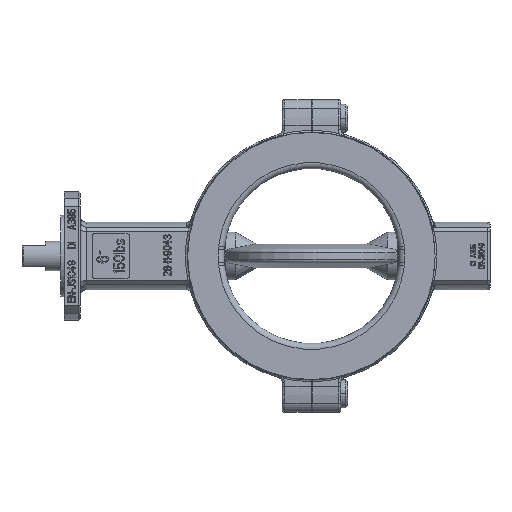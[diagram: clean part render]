
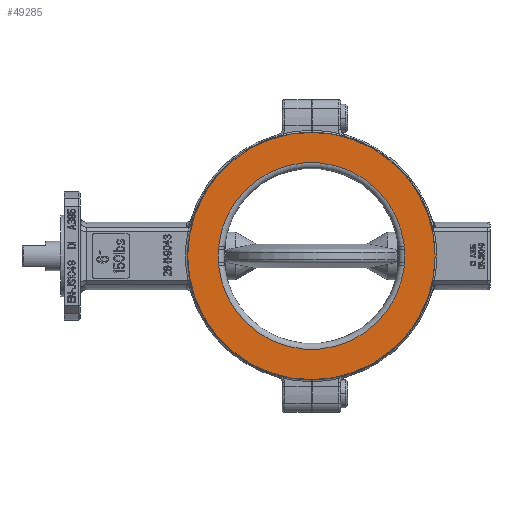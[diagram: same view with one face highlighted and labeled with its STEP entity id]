
A CAD part, left-side view. The second image highlights one B-rep face of the part: STEP entity #49285.
In plain terms, the highlighted planar face has unit normal (-1, 0, 0).
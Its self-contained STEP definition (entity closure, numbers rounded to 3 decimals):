
#3115=CARTESIAN_POINT('',(-28.,0.,0.));
#3116=DIRECTION('',(1.,0.,0.));
#3117=DIRECTION('',(0.,0.,-1.));
#3118=AXIS2_PLACEMENT_3D('',#3115,#3116,#3117);
#4468=CARTESIAN_POINT('',(-28.,79.536,
-8.604));
#4469=CARTESIAN_POINT('',(-28.,79.573,
-8.262));
#4470=CARTESIAN_POINT('',(-28.,79.634,
-7.564));
#4471=CARTESIAN_POINT('',(-28.,79.689,
-6.472));
#4472=CARTESIAN_POINT('',(-28.,79.7,
-5.716));
#4473=CARTESIAN_POINT('',(-28.,79.7,
-5.331));
#4491=CARTESIAN_POINT('',(-28.,0.,0.));
#4492=DIRECTION('',(-1.,0.,0.));
#4493=DIRECTION('',(0.,0.,-1.));
#4494=AXIS2_PLACEMENT_3D('',#4491,#4492,#4493);
#4500=CARTESIAN_POINT('',(-28.,0.,0.));
#4501=DIRECTION('',(1.,0.,0.));
#4502=DIRECTION('',(0.,-0.994,-0.108));
#4503=AXIS2_PLACEMENT_3D('',#4500,#4501,#4502);
#4510=CARTESIAN_POINT('',(-28.,-79.536,
-8.604));
#4511=CARTESIAN_POINT('',(-28.,-79.573,
-8.262));
#4512=CARTESIAN_POINT('',(-28.,-79.634,
-7.564));
#4513=CARTESIAN_POINT('',(-28.,-79.689,
-6.472));
#4514=CARTESIAN_POINT('',(-28.,-79.7,
-5.716));
#4515=CARTESIAN_POINT('',(-28.,-79.7,
-5.331));
#21171=DIRECTION('',(0.,0.,1.));
#21172=VECTOR('',#21171,10.662);
#21173=CARTESIAN_POINT('',(-28.,79.7,
-5.331));
#21174=LINE('',#21173,#21172);
#21184=CARTESIAN_POINT('',(-28.,79.7,
5.331));
#21185=CARTESIAN_POINT('',(-28.,79.7,
5.718));
#21186=CARTESIAN_POINT('',(-28.,79.688,
6.476));
#21187=CARTESIAN_POINT('',(-28.,79.634,
7.568));
#21188=CARTESIAN_POINT('',(-28.,79.573,
8.264));
#21189=CARTESIAN_POINT('',(-28.,79.536,
8.604));
#21213=CARTESIAN_POINT('',(-28.,0.,0.));
#21214=DIRECTION('',(1.,0.,0.));
#21215=DIRECTION('',(0.,0.994,0.108));
#21216=AXIS2_PLACEMENT_3D('',#21213,#21214,#21215);
#21340=CARTESIAN_POINT('',(-28.,-79.7,
5.331));
#21341=CARTESIAN_POINT('',(-28.,-79.7,
5.718));
#21342=CARTESIAN_POINT('',(-28.,-79.688,
6.476));
#21343=CARTESIAN_POINT('',(-28.,-79.634,
7.568));
#21344=CARTESIAN_POINT('',(-28.,-79.573,
8.264));
#21345=CARTESIAN_POINT('',(-28.,-79.536,
8.604));
#21359=DIRECTION('',(0.,0.,1.));
#21360=VECTOR('',#21359,10.662);
#21361=CARTESIAN_POINT('',(-28.,-79.7,
-5.331));
#21362=LINE('',#21361,#21360);
#44608=CARTESIAN_POINT('',(-28.,0.,-106.));
#44609=CARTESIAN_POINT('',(-28.,0.,106.));
#44610=VERTEX_POINT('',#44608);
#44611=VERTEX_POINT('',#44609);
#44624=VERTEX_POINT('',#4468);
#44625=VERTEX_POINT('',#4473);
#44628=CARTESIAN_POINT('',(-28.,79.7,
5.331));
#44629=VERTEX_POINT('',#44628);
#44632=VERTEX_POINT('',#21189);
#44644=VERTEX_POINT('',#4510);
#44645=VERTEX_POINT('',#4515);
#44648=CARTESIAN_POINT('',(-28.,-79.7,
5.331));
#44649=VERTEX_POINT('',#44648);
#44652=VERTEX_POINT('',#21345);
#49258=CARTESIAN_POINT('',(-28.,0.,0.));
#49259=DIRECTION('',(1.,0.,0.));
#49260=DIRECTION('',(0.,0.,-1.));
#49261=AXIS2_PLACEMENT_3D('',#49258,#49259,#49260);
#49262=PLANE('',#49261);
#49263=ORIENTED_EDGE('',*,*,#47237,.T.);
#49265=ORIENTED_EDGE('',*,*,#49264,.F.);
#49266=EDGE_LOOP('',(#49263,#49265));
#49267=FACE_OUTER_BOUND('',#49266,.F.);
#49269=ORIENTED_EDGE('',*,*,#49268,.F.);
#49271=ORIENTED_EDGE('',*,*,#49270,.T.);
#49273=ORIENTED_EDGE('',*,*,#49272,.T.);
#49275=ORIENTED_EDGE('',*,*,#49274,.T.);
#49277=ORIENTED_EDGE('',*,*,#49276,.F.);
#49279=ORIENTED_EDGE('',*,*,#49278,.F.);
#49281=ORIENTED_EDGE('',*,*,#49280,.F.);
#49282=ORIENTED_EDGE('',*,*,#49248,.F.);
#49283=EDGE_LOOP('',(#49269,#49271,#49273,#49275,#49277,#49279,#49281,#49282));
#49284=FACE_BOUND('',#49283,.F.);
#49285=ADVANCED_FACE('',(#49267,#49284),#49262,.F.);
#3119=CIRCLE('',#3118,106.);
#4474=B_SPLINE_CURVE_WITH_KNOTS('',3,(#4468,#4469,#4470,#4471,#4472,#4473),
.UNSPECIFIED.,.F.,.F.,(4,1,1,4),(0.,0.333,0.667,1.),
.UNSPECIFIED.);
#4495=CIRCLE('',#4494,106.);
#4504=CIRCLE('',#4503,80.);
#4516=B_SPLINE_CURVE_WITH_KNOTS('',3,(#4510,#4511,#4512,#4513,#4514,#4515),
.UNSPECIFIED.,.F.,.F.,(4,1,1,4),(0.,0.333,0.667,1.),
.UNSPECIFIED.);
#21190=B_SPLINE_CURVE_WITH_KNOTS('',3,(#21184,#21185,#21186,#21187,#21188,
#21189),.UNSPECIFIED.,.F.,.F.,(4,1,1,4),(0.,0.333,
0.667,1.),.UNSPECIFIED.);
#21217=CIRCLE('',#21216,80.);
#21346=B_SPLINE_CURVE_WITH_KNOTS('',3,(#21340,#21341,#21342,#21343,#21344,
#21345),.UNSPECIFIED.,.F.,.F.,(4,1,1,4),(0.,0.333,
0.667,1.),.UNSPECIFIED.);
#47237=EDGE_CURVE('',#44610,#44611,#3119,.T.);
#49248=EDGE_CURVE('',#44624,#44625,#4474,.T.);
#49264=EDGE_CURVE('',#44610,#44611,#4495,.T.);
#49268=EDGE_CURVE('',#44644,#44624,#4504,.T.);
#49270=EDGE_CURVE('',#44644,#44645,#4516,.T.);
#49272=EDGE_CURVE('',#44645,#44649,#21362,.T.);
#49274=EDGE_CURVE('',#44649,#44652,#21346,.T.);
#49276=EDGE_CURVE('',#44632,#44652,#21217,.T.);
#49278=EDGE_CURVE('',#44629,#44632,#21190,.T.);
#49280=EDGE_CURVE('',#44625,#44629,#21174,.T.);
